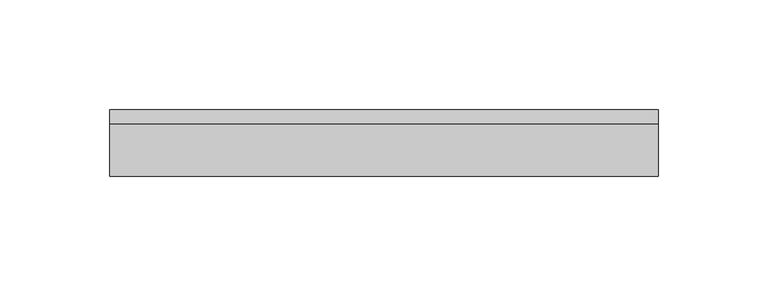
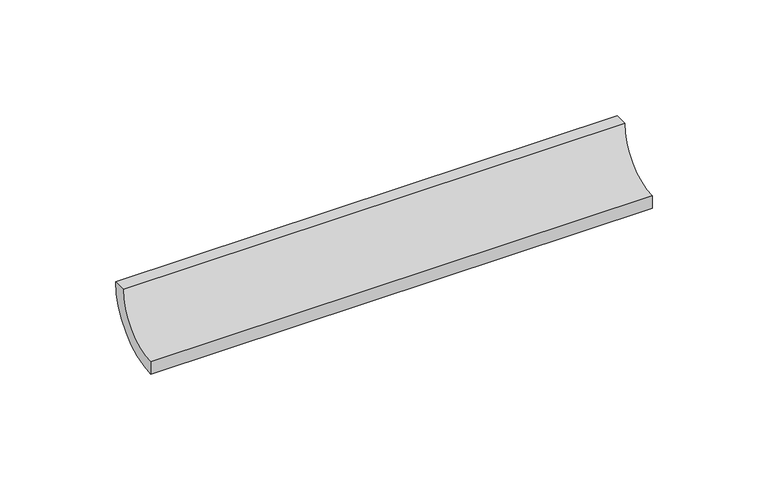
"""IFC4 building model written with IfcOpenShell, lengths in millimetres: proxy geometry, EXAGRES - Piscina Mediacaña : Publica_Azul_24.5x4cm."""

import ifcopenshell
import ifcopenshell.guid

model = None  # the IFC model being written
_history = None  # IfcOwnerHistory: only IFC2X3 demands one
_inside = {}  # id of a spatial element -> (the spatial element, [elements in it])
_under = {}  # id of a project, library or spatial element -> (it, [spatial elements below it])
_declared = {}  # id of a project -> (the project, [libraries it declares])
_typed = {}  # id of a type object -> (the type object, [elements of that type])
_made_of = {}  # id of a material, layer set ... -> (it, [elements and type objects made of it])


def new_model(schema):
    """Start an empty IFC model of exactly this schema.

    Asked for "IFC4X3", IfcOpenShell would pick the latest addendum, in which some entities
    have other attributes; the version numbers below select the first issue.
    IFC2X3 requires an IfcOwnerHistory on every rooted entity: one is made here for all.
    """
    global model, _history
    if schema == "IFC4X3":
        model = ifcopenshell.file(schema_version=(4, 3, 0, 0))
    else:
        model = ifcopenshell.file(schema=schema)
    _inside.clear()
    _under.clear()
    _declared.clear()
    _typed.clear()
    _made_of.clear()
    _history = None
    if model.schema == "IFC2X3":
        org = make("IfcOrganization", Name="unknown")
        user = make(
            "IfcPersonAndOrganization",
            ThePerson=make("IfcPerson", FamilyName="unknown"),
            TheOrganization=org,
        )
        app = make(
            "IfcApplication",
            ApplicationDeveloper=org,
            Version="unknown",
            ApplicationFullName="unknown",
            ApplicationIdentifier="unknown",
        )
        _history = make(
            "IfcOwnerHistory",
            OwningUser=user,
            OwningApplication=app,
            ChangeAction="ADDED",
            CreationDate=0,
        )
    return model


def make(cls, **values):
    """One entity of the class cls with the attributes given. An attribute that is None is left unset."""
    return model.create_entity(
        cls, **{name: value for name, value in values.items() if value is not None}
    )


def rooted(cls, **values):
    """An entity with a GlobalId (a new one), such as an element, a storey or a relation."""
    return make(cls, GlobalId=ifcopenshell.guid.new(), OwnerHistory=_history, **values)


def si_unit(unit_type, name, prefix=None):
    """IfcSIUnit, for example si_unit("LENGTHUNIT", "METRE", prefix="MILLI")."""
    return make("IfcSIUnit", UnitType=unit_type, Prefix=prefix, Name=name)


def assignment(units):
    """IfcUnitAssignment: the units of a project."""
    return None if units is None else make("IfcUnitAssignment", Units=units)


def point(xyz):
    """IfcCartesianPoint."""
    return None if xyz is None else make("IfcCartesianPoint", Coordinates=xyz)


def direction(xyz):
    """IfcDirection."""
    return None if xyz is None else make("IfcDirection", DirectionRatios=xyz)


def frame(location, z_axis=None, x_axis=None):
    """IfcAxis2Placement3D, a coordinate frame: its origin and axes. An axis left out is left unset."""
    return make(
        "IfcAxis2Placement3D",
        Location=point(location),
        Axis=direction(z_axis),
        RefDirection=direction(x_axis),
    )


def frame_2d(location, x_axis=None):
    """IfcAxis2Placement2D, a coordinate frame in the plane: its origin and x axis."""
    return make(
        "IfcAxis2Placement2D", Location=point(location), RefDirection=direction(x_axis)
    )


def origin():
    """The frame at (0, 0, 0) with its axes left unset."""
    return frame((0.0, 0.0, 0.0))


def place(relative_to, where):
    """IfcLocalPlacement: puts the frame where relative to a parent placement (None: the world)."""
    return make(
        "IfcLocalPlacement", PlacementRelTo=relative_to, RelativePlacement=where
    )


def context(
    kind, dimensions, precision=None, world=None, true_north=None, identifier=None
):
    """IfcGeometricRepresentationContext, for example the 3D "Model" context."""
    return make(
        "IfcGeometricRepresentationContext",
        ContextIdentifier=identifier,
        ContextType=kind,
        CoordinateSpaceDimension=dimensions,
        Precision=precision,
        WorldCoordinateSystem=world,
        TrueNorth=true_north,
    )


def project(units=None, contexts=None):
    """IfcProject with its units and contexts."""
    return rooted(
        "IfcProject",
        Name="project",
        RepresentationContexts=contexts,
        UnitsInContext=assignment(units),
    )


def spatial(cls, under=None, at=None, **own):
    """A site, building, storey or space (cls), placed at a placement, below another one or the project."""
    s = rooted(cls, ObjectPlacement=at, **own)
    if under is not None:
        _under.setdefault(under.id(), (under, []))[1].append(s)
    return s


def polyline(points):
    """IfcPolyline through the points."""
    return make("IfcPolyline", Points=[point(p) for p in points])


def circle_curve(where, radius):
    """IfcCircle in the frame where."""
    return make("IfcCircle", Position=where, Radius=radius)


def trimmed(basis, trim1, trim2, sense, master):
    """IfcTrimmedCurve: the piece of a basis curve between two trims."""
    return make(
        "IfcTrimmedCurve",
        BasisCurve=basis,
        Trim1=trim1,
        Trim2=trim2,
        SenseAgreement=sense,
        MasterRepresentation=master,
    )


def segment(curve, same_sense, transition):
    """IfcCompositeCurveSegment."""
    return make(
        "IfcCompositeCurveSegment",
        Transition=transition,
        SameSense=same_sense,
        ParentCurve=curve,
    )


def composite_curve(segments, self_intersect=None):
    """IfcCompositeCurve: segments joined end to end."""
    return make("IfcCompositeCurve", Segments=segments, SelfIntersect=self_intersect)


def outline(outer, holes=None, kind="AREA"):
    """IfcArbitraryClosedProfileDef: a profile drawn as a closed curve; with holes, ...WithVoids."""
    if holes is None:
        return make("IfcArbitraryClosedProfileDef", ProfileType=kind, OuterCurve=outer)
    return make(
        "IfcArbitraryProfileDefWithVoids",
        ProfileType=kind,
        OuterCurve=outer,
        InnerCurves=holes,
    )


def extrude(swept, where, along, depth):
    """IfcExtrudedAreaSolid: the profile swept, set in the frame where, extruded along a direction by depth."""
    return make(
        "IfcExtrudedAreaSolid",
        SweptArea=swept,
        Position=where,
        ExtrudedDirection=direction(along),
        Depth=depth,
    )


def shape(context_of_items, identifier, shape_type, items):
    """IfcShapeRepresentation: the items that make up one representation, for example the "Body"."""
    return make(
        "IfcShapeRepresentation",
        ContextOfItems=context_of_items,
        RepresentationIdentifier=identifier,
        RepresentationType=shape_type,
        Items=items,
    )


def source(mapping_origin, context_of_items, identifier, shape_type, items):
    """IfcRepresentationMap: a shape defined once, which mapped items show again and again."""
    return make(
        "IfcRepresentationMap",
        MappingOrigin=mapping_origin,
        MappedRepresentation=shape(context_of_items, identifier, shape_type, items),
    )


def transform(
    local_origin,
    x_axis=None,
    y_axis=None,
    z_axis=None,
    scale=None,
    scale2=None,
    scale3=None,
    uniform=True,
):
    """IfcCartesianTransformationOperator3D, or its non-uniform kind. x_axis, y_axis, z_axis: its Axis1, 2, 3."""
    if uniform:
        return make(
            "IfcCartesianTransformationOperator3D",
            Axis1=direction(x_axis),
            Axis2=direction(y_axis),
            LocalOrigin=point(local_origin),
            Scale=scale,
            Axis3=direction(z_axis),
        )
    return make(
        "IfcCartesianTransformationOperator3DnonUniform",
        Axis1=direction(x_axis),
        Axis2=direction(y_axis),
        LocalOrigin=point(local_origin),
        Scale=scale,
        Axis3=direction(z_axis),
        Scale2=scale2,
        Scale3=scale3,
    )


def mapped(mapping_source, mapping_target):
    """IfcMappedItem: shows the shape of a source again, moved by a transform."""
    return make(
        "IfcMappedItem", MappingSource=mapping_source, MappingTarget=mapping_target
    )


def made_of(thing, what):
    """Note that an element or type object is made of a material, layer set ...; save() writes the relation."""
    if what is not None:
        _made_of.setdefault(what.id(), (what, []))[1].append(thing)
    return thing


def element(
    cls,
    number,
    at=None,
    inside=None,
    cuts=None,
    type_object=None,
    material=None,
    context=None,
    identifier="Body",
    shape_type=None,
    held_by="IfcProductDefinitionShape",
    body=None,
    shapes=None,
    **own,
):
    """One element of the class cls, such as IfcWall. Its Tag is "e" and its number.

    at: its placement. inside: the storey or other place that contains it. cuts: it is an
    opening in that element (IfcRelVoidsElement). A single representation is given by context,
    identifier, shape_type and body (its items); several are given by shapes. held_by: the class
    of the entity that holds the representations. save() writes the other relations.
    """
    e = rooted(cls, Tag="e%d" % number, ObjectPlacement=at, **own)
    if body is not None:
        shapes = [shape(context, identifier, shape_type, body)]
    if shapes is not None:
        e.Representation = make(held_by, Representations=shapes)
    if inside is not None:
        _inside.setdefault(inside.id(), (inside, []))[1].append(e)
    if cuts is not None:
        rooted(
            "IfcRelVoidsElement", RelatingBuildingElement=cuts, RelatedOpeningElement=e
        )
    if type_object is not None:
        _typed.setdefault(type_object.id(), (type_object, []))[1].append(e)
    return made_of(e, material)


def aggregate(whole, parts):
    """IfcRelAggregates: a whole, such as a stair, and the parts it consists of."""
    return rooted("IfcRelAggregates", RelatingObject=whole, RelatedObjects=parts)


def save(model, path):
    """Write the relations noted so far, then the file.

    IfcRelAggregates (storeys below a building ...), IfcRelContainedInSpatialStructure (elements
    in a storey), IfcRelDefinesByType, IfcRelAssociatesMaterial and IfcRelDeclares: one each for
    every whole, place, type object, material and project.
    """
    for whole, parts in _under.values():
        aggregate(whole, parts)
    for where, things in _inside.values():
        rooted(
            "IfcRelContainedInSpatialStructure",
            RelatedElements=things,
            RelatingStructure=where,
        )
    for kind, things in _typed.values():
        rooted("IfcRelDefinesByType", RelatedObjects=things, RelatingType=kind)
    for what, things in _made_of.values():
        rooted("IfcRelAssociatesMaterial", RelatedObjects=things, RelatingMaterial=what)
    for by, libraries in _declared.values():
        rooted("IfcRelDeclares", RelatingContext=by, RelatedDefinitions=libraries)
    model.write(path)


def generic_models_22dde71d(model_context):
    return source(origin(), model_context, "Body", "SweptSolid", [
        extrude(outline(composite_curve([segment(polyline([(0.0, 23.9), (6.4, 23.9)]), True, "CONTINUOUS"), segment(trimmed(circle_curve(frame_2d((-23.9, 23.9)), 30.3), [point((6.4, 23.9))], [point((-23.9, -6.4))], False, "CARTESIAN"), True, "CONTINUOUS"), segment(polyline([(-23.9, -6.4), (-23.9, 0.0)]), True, "CONTINUOUS"), segment(trimmed(circle_curve(frame_2d((-23.9, 23.9)), 23.9), [point((-23.9, 0.0))], [point((0.0, 23.9))], True, "CARTESIAN"), True, "CONTINUOUS")], self_intersect=False)), frame((0.0, 0.0, 0.0), z_axis=(1.0, 0.0, 0.0), x_axis=(0.0, 1.0, 0.0)), (0.0, 0.0, 1.0), 250.0),
    ])


if __name__ == "__main__":
    model = new_model("IFC4")
    model_context = context("Model", 3, world=origin())
    ifc_project = project(units=[si_unit("LENGTHUNIT", "METRE", prefix="MILLI")], contexts=[model_context])
    site = spatial("IfcSite", under=ifc_project)
    building = spatial("IfcBuilding", under=site)
    placement = place(None, origin())
    generic_models_shape = generic_models_22dde71d(model_context)
    element("IfcBuildingElementProxy", 1, Name="EXAGRES - Piscina Mediacaña : Publica_Azul_24.5x4cm", ObjectType="EXAGRES - Piscina Mediacaña : Publica_Azul_24.5x4cm", at=placement, inside=building, context=model_context, shape_type="MappedRepresentation", body=[
        mapped(generic_models_shape, transform((0.0, 0.0, 0.0), x_axis=(1.0, 0.0, 0.0), y_axis=(0.0, 1.0, 0.0), z_axis=(0.0, 0.0, 1.0))),
    ])
    save(model, "model.ifc")
